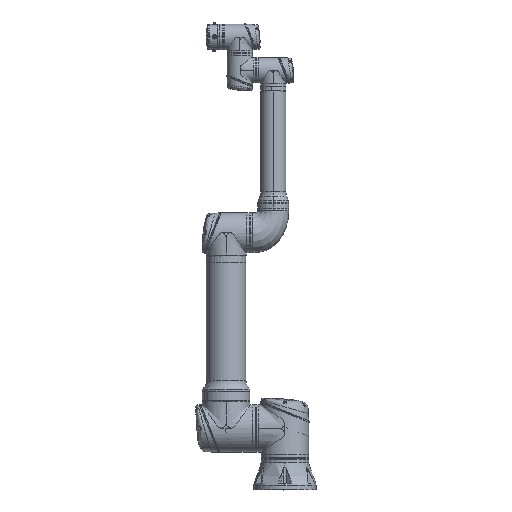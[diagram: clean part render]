
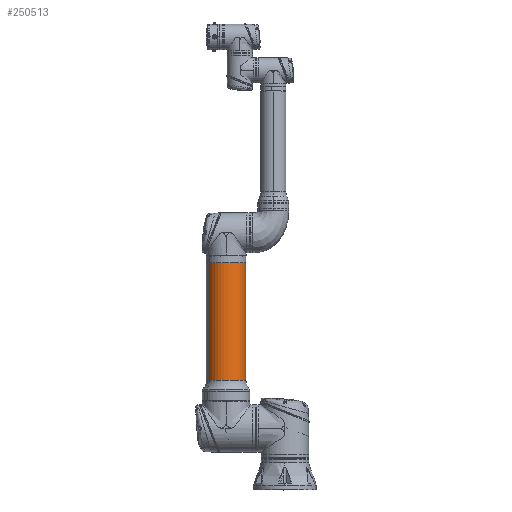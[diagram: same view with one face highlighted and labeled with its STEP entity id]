
A CAD part, top view. The second image highlights one B-rep face of the part: STEP entity #250513.
In plain terms, the highlighted cylindrical face has radius 76 mm (diameter 152 mm), a partial arc.
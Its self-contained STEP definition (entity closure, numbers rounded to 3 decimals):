
#10092 = CARTESIAN_POINT ( 'NONE',  ( 0., -635.5, 0. ) ) ;
#16152 = EDGE_LOOP ( 'NONE', ( #231914, #120556, #38753, #21244 ) ) ;
#21244 = ORIENTED_EDGE ( 'NONE', *, *, #163989, .T. ) ;
#27999 = AXIS2_PLACEMENT_3D ( 'NONE', #10092, #30946, #108692 ) ;
#30946 = DIRECTION ( 'NONE',  ( 0., 1., 0. ) ) ;
#34747 = CARTESIAN_POINT ( 'NONE',  ( -43.158, -635.5, 62.557 ) ) ;
#37913 = VERTEX_POINT ( 'NONE', #34747 ) ;
#38339 = VERTEX_POINT ( 'NONE', #64012 ) ;
#38753 = ORIENTED_EDGE ( 'NONE', *, *, #212779, .T. ) ;
#43626 = CARTESIAN_POINT ( 'NONE',  ( 43.158, -635.5, -62.557 ) ) ;
#45030 = CARTESIAN_POINT ( 'NONE',  ( -43.158, -97., 62.557 ) ) ;
#45753 = AXIS2_PLACEMENT_3D ( 'NONE', #242250, #188658, #239027 ) ;
#64012 = CARTESIAN_POINT ( 'NONE',  ( -43.158, -184.707, 62.557 ) ) ;
#68239 = FACE_OUTER_BOUND ( 'NONE', #16152, .T. ) ;
#69113 = VERTEX_POINT ( 'NONE', #43626 ) ;
#84605 = CARTESIAN_POINT ( 'NONE',  ( 43.158, -97., -62.557 ) ) ;
#86610 = CIRCLE ( 'NONE', #246622, 76. ) ;
#95564 = CYLINDRICAL_SURFACE ( 'NONE', #45753, 76. ) ;
#102083 = EDGE_CURVE ( 'NONE', #69113, #37913, #204944, .T. ) ;
#108692 = DIRECTION ( 'NONE',  ( -0.568, 0., 0.823 ) ) ;
#120556 = ORIENTED_EDGE ( 'NONE', *, *, #102083, .T. ) ;
#125923 = LINE ( 'NONE', #84605, #259223 ) ;
#137869 = DIRECTION ( 'NONE',  ( 0., -1., 0. ) ) ;
#142366 = LINE ( 'NONE', #45030, #271853 ) ;
#143723 = DIRECTION ( 'NONE',  ( 0., 1., 0. ) ) ;
#163989 = EDGE_CURVE ( 'NONE', #38339, #173102, #86610, .T. ) ;
#173102 = VERTEX_POINT ( 'NONE', #176370 ) ;
#176370 = CARTESIAN_POINT ( 'NONE',  ( 43.158, -184.707, -62.557 ) ) ;
#186155 = CARTESIAN_POINT ( 'NONE',  ( 0., -184.707, 0. ) ) ;
#188658 = DIRECTION ( 'NONE',  ( 0., 1., 0. ) ) ;
#204944 = CIRCLE ( 'NONE', #27999, 76. ) ;
#207373 = DIRECTION ( 'NONE',  ( 0., 1., 0. ) ) ;
#212779 = EDGE_CURVE ( 'NONE', #37913, #38339, #142366, .T. ) ;
#231914 = ORIENTED_EDGE ( 'NONE', *, *, #314619, .F. ) ;
#236545 = DIRECTION ( 'NONE',  ( -0.568, 0., 0.823 ) ) ;
#239027 = DIRECTION ( 'NONE',  ( -0.568, 0., 0.823 ) ) ;
#242250 = CARTESIAN_POINT ( 'NONE',  ( 0., -97., 0. ) ) ;
#246622 = AXIS2_PLACEMENT_3D ( 'NONE', #186155, #137869, #236545 ) ;
#250513 = ADVANCED_FACE ( 'NONE', ( #68239 ), #95564, .T. ) ;
#259223 = VECTOR ( 'NONE', #207373, 1000. ) ;
#271853 = VECTOR ( 'NONE', #143723, 1000. ) ;
#314619 = EDGE_CURVE ( 'NONE', #69113, #173102, #125923, .T. ) ;
